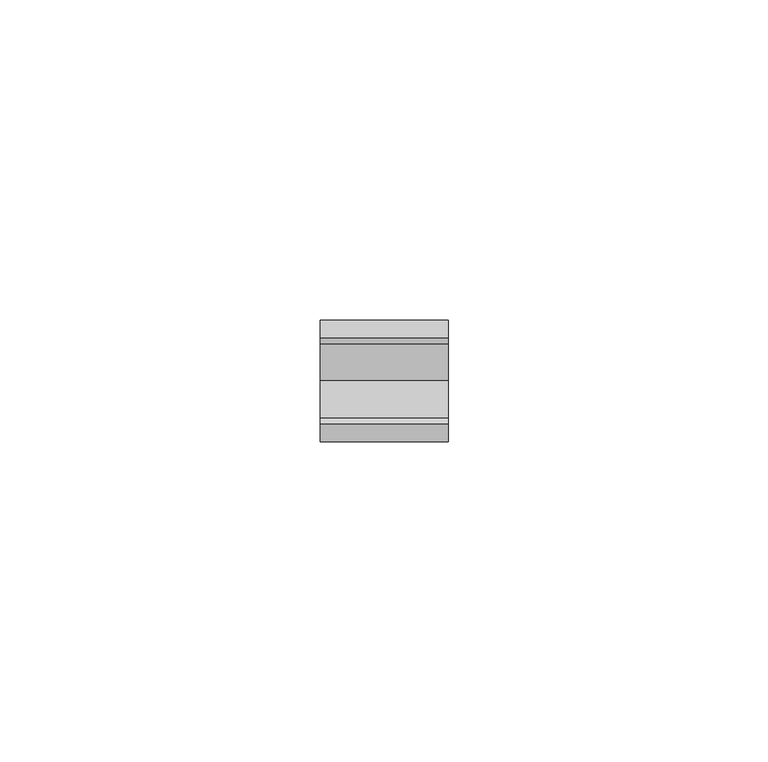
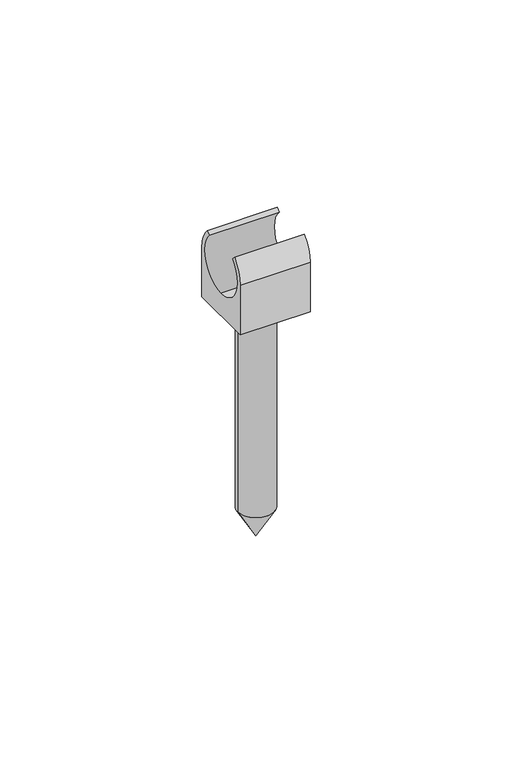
"""IFC4 building model written with IfcOpenShell, lengths in millimetres: cable carrier fitting geometry, Держатель с защелкой и дюбелем CT : CTA10D-CT16-K41-100."""

from ifc_helpers import new_model, si_unit, point, frame, origin, origin_2d, place, context, project, spatial, polyline, circle_curve, trimmed, segment, composite_curve, outline, extrude, source, transform, mapped, element, save
from ifc_brep_helpers import plane_surface, cylinder_surface, revolved_surface, advanced_brep


def cable_carrier_fitting_ea881ea5(model_context):
    return source(origin(), model_context, "Body", "SolidModel", [
        advanced_brep(
        [(0.0, 0.0, -15.0), (5.2073093, 0.0, -15.0), (-5.2073093, 0.0, -15.0), (-5.2073093, 0.0, -75.9806758), (5.2073093, 0.0, -75.9806758), (0.0, 0.0, -85.0)],
        [
            (0, 1),
            (1, 2, circle_curve(frame((0.0, 0.0, -15.0), z_axis=(0.0, 0.0, 1.0), x_axis=(1.0, 0.0, 0.0)), 5.2073093)),
            (2, 0),
            (2, 1, circle_curve(frame((0.0, 0.0, -15.0), z_axis=(0.0, 0.0, 1.0), x_axis=(1.0, 0.0, 0.0)), 5.2073093)),
            (3, 4, circle_curve(frame((0.0, 0.0, -75.9806758), z_axis=(0.0, 0.0, -1.0), x_axis=(1.0, 0.0, 0.0)), 5.2073093)),
            (4, 5),
            (5, 3),
            (4, 3, circle_curve(frame((0.0, 0.0, -75.9806758), z_axis=(0.0, 0.0, -1.0), x_axis=(1.0, 0.0, 0.0)), 5.2073093)),
            (1, 4),
            (3, 2),
        ],
        [
            plane_surface(frame((0.0, 0.0, -15.0), z_axis=(0.0, 0.0, 1.0), x_axis=(1.0, 0.0, 0.0))),
            revolved_surface(polyline([(0.0, 0.0, -85.0), (5.2073093, 0.0, -75.9806758)]), (0.0, 0.0, 2199.3150031), (0.0, 0.0, 1.0)),
            cylinder_surface(frame((0.0, 0.0, 2199.3150031), z_axis=(0.0, 0.0, 1.0), x_axis=(1.0, 0.0, 0.0)), 5.2073093),
        ],
        [
            (0, [[1, 2, 3]]),
            (0, [[-3, 4, -1]]),
            (1, [[5, 6, 7]]),
            (1, [[8, -7, -6]]),
            (2, [[-2, 9, -5, 10]]),
            (2, [[-4, -10, -8, -9]]),
        ],
    ),
        extrude(outline(composite_curve([segment(trimmed(circle_curve(origin_2d(), 8.2369047), [point((0.0, -8.2369047))], [point((5.8243712, 5.8243712))], True, "CARTESIAN"), True, "CONTINUOUS"), segment(polyline([(5.8243712, 5.8243712), (6.7175144, 6.7175144)]), True, "CONTINUOUS"), segment(trimmed(circle_curve(origin_2d(), 9.5), [point((6.7175144, 6.7175144))], [point((9.5, 0.0))], False, "CARTESIAN"), True, "CONTINUOUS"), segment(polyline([(9.5, 0.0), (9.5, -15.0), (-9.5, -15.0), (-9.5, 0.0)]), True, "CONTINUOUS"), segment(trimmed(circle_curve(origin_2d(), 9.5), [point((-9.5, 0.0))], [point((-6.7175144, 6.7175144))], False, "CARTESIAN"), True, "CONTINUOUS"), segment(polyline([(-6.7175144, 6.7175144), (-5.8243712, 5.8243712)]), True, "CONTINUOUS"), segment(trimmed(circle_curve(origin_2d(), 8.2369047), [point((-5.8243712, 5.8243712))], [point((0.0, -8.2369047))], True, "CARTESIAN"), True, "CONTINUOUS")], self_intersect=False)), frame((-10.0, 0.0, 0.0), z_axis=(1.0, 0.0, 0.0), x_axis=(0.0, 1.0, 0.0)), (0.0, 0.0, 1.0), 20.0),
    ])


if __name__ == "__main__":
    model = new_model("IFC4")
    model_context = context("Model", 3, world=origin())
    ifc_project = project(units=[si_unit("LENGTHUNIT", "METRE", prefix="MILLI")], contexts=[model_context])
    site = spatial("IfcSite", under=ifc_project)
    building = spatial("IfcBuilding", under=site)
    placement = place(None, origin())
    cable_carrier_fitting_shape = cable_carrier_fitting_ea881ea5(model_context)
    element("IfcCableCarrierFitting", 1, ObjectType="Держатель с защелкой и дюбелем CT : CTA10D-CT16-K41-100", at=placement, inside=building, context=model_context, shape_type="MappedRepresentation", body=[
        mapped(cable_carrier_fitting_shape, transform((0.0, 0.0, 0.0), x_axis=(1.0, 0.0, 0.0), y_axis=(0.0, 1.0, 0.0), z_axis=(0.0, 0.0, 1.0))),
    ])
    save(model, "model.ifc")
